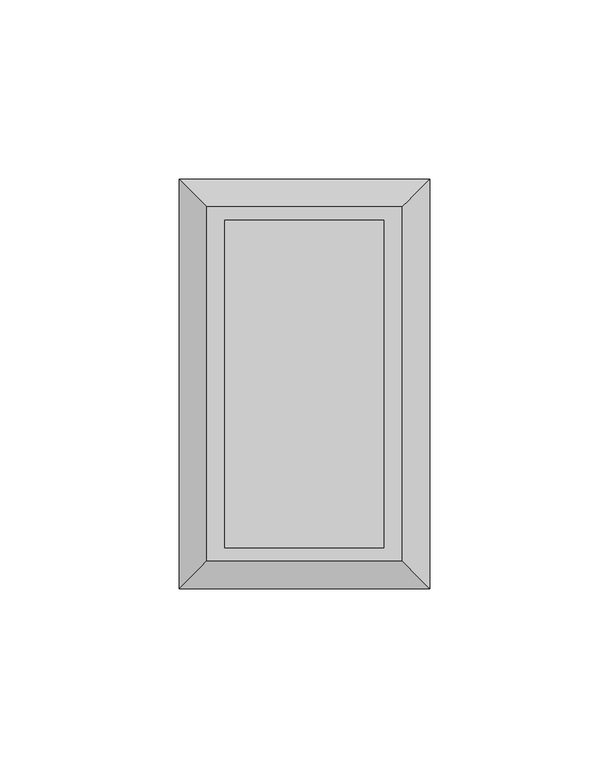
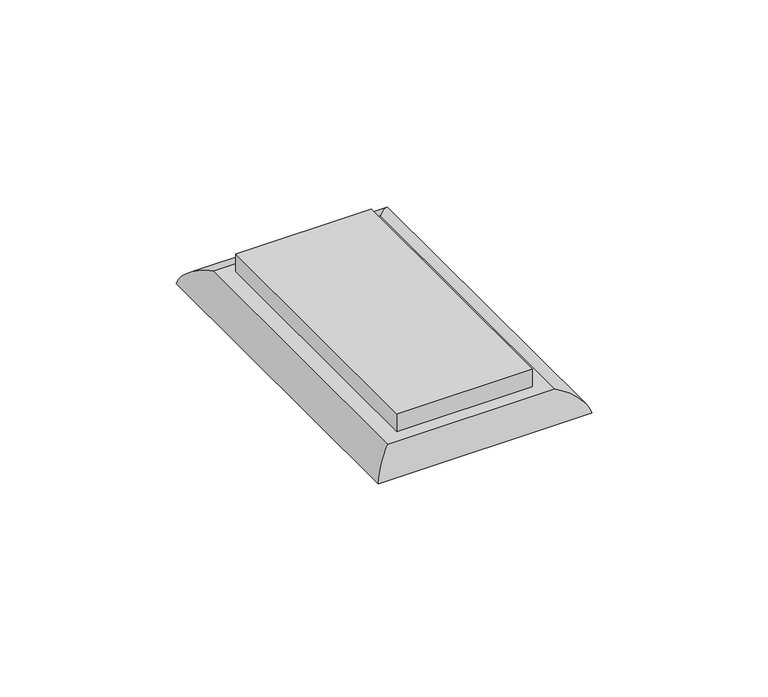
"""IFC4 building model written with IfcOpenShell, lengths in millimetres: proxy geometry, Cover_Plate-Wall-Pass_And_Seymour-Steel_Covers : Vertical, Decorator, Locking."""

from ifc_helpers import new_model, si_unit, frame, origin, place, context, project, spatial, polyline, ellipse_curve, outline, extrude, source, transform, mapped, element, save
from ifc_brep_helpers import plane_surface, cylinder_surface, advanced_brep


def electrical_fixtures_f4730aa6(model_context):
    return source(origin(), model_context, "Body", "SolidModel", [
        advanced_brep(
        [(-27.305, -49.53, 6.35), (-34.925, -57.15, 0.0), (34.925, -57.15, 0.0), (27.305, -49.53, 6.35), (-27.305, 49.53, 6.35), (-34.925, 57.15, 0.0), (27.305, 49.53, 6.35), (34.925, 57.15, 0.0)],
        [
            (0, 1, ellipse_curve(frame((-27.305, -49.53, -1.397), z_axis=(0.7071067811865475, -0.7071067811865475, 0.0), x_axis=(-0.7071067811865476, -0.7071067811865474, 0.0)), 10.9559125, 7.747)),
            (1, 2),
            (2, 3, ellipse_curve(frame((27.305, -49.53, -1.397), z_axis=(-0.7071067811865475, -0.7071067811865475, 0.0), x_axis=(-0.7071067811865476, 0.7071067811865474, 0.0)), 10.9559125, 7.747)),
            (3, 0),
            (0, 4),
            (4, 5, ellipse_curve(frame((-27.305, 49.53, -1.397), z_axis=(-0.7071067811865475, -0.7071067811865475, 0.0), x_axis=(-0.7071067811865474, 0.7071067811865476, 0.0)), 10.9559125, 7.747)),
            (5, 1),
            (4, 6),
            (6, 7, ellipse_curve(frame((27.305, 49.53, -1.397), z_axis=(-0.7071067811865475, 0.7071067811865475, 0.0), x_axis=(0.7071067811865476, 0.7071067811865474, 0.0)), 10.9559125, 7.747)),
            (7, 5),
            (2, 7),
            (6, 3),
        ],
        [
            cylinder_surface(frame((34.925, -49.53, -1.397), z_axis=(-1.0, 0.0, 0.0), x_axis=(0.0, -1.0, 0.0)), 7.747),
            cylinder_surface(frame((-27.305, -57.15, -1.397), z_axis=(0.0, 1.0, 0.0), x_axis=(-1.0, 0.0, 0.0)), 7.747),
            cylinder_surface(frame((-34.925, 49.53, -1.397), z_axis=(1.0, 0.0, 0.0), x_axis=(0.0, 1.0, 0.0)), 7.747),
            cylinder_surface(frame((27.305, 57.15, -1.397), z_axis=(0.0, -1.0, 0.0), x_axis=(1.0, 0.0, 0.0)), 7.747),
            plane_surface(frame((-34.925, 57.15, 6.35), z_axis=(0.0, 0.0, 1.0), x_axis=(-1.0, 0.0, 0.0))),
            plane_surface(frame((-34.925, 57.15, 0.0), z_axis=(0.0, 0.0, -1.0), x_axis=(1.0, 0.0, 0.0))),
        ],
        [
            (0, [[1, 2, 3, 4]]),
            (1, [[-1, 5, 6, 7]]),
            (2, [[-6, 8, 9, 10]]),
            (3, [[-3, 11, -9, 12]]),
            (4, [[-4, -12, -8, -5]]),
            (5, [[-2, -7, -10, -11]]),
        ],
    ),
        extrude(outline(polyline([(22.225, 45.6438), (22.225, -45.6438), (-22.225, -45.6438), (-22.225, 45.6438), (22.225, 45.6438)])), frame((0.0, 0.0, 6.35), z_axis=(0.0, 0.0, 1.0), x_axis=(1.0, 0.0, 0.0)), (0.0, 0.0, 1.0), 6.35),
        extrude(outline(polyline([(21.844, 35.179), (21.844, -35.179), (-21.844, -35.179), (-21.844, 35.179), (21.844, 35.179)])), frame((0.0, 0.0, -12.7), z_axis=(0.0, 0.0, 1.0), x_axis=(1.0, 0.0, 0.0)), (0.0, 0.0, 1.0), 12.7),
    ])


if __name__ == "__main__":
    model = new_model("IFC4")
    model_context = context("Model", 3, world=origin())
    ifc_project = project(units=[si_unit("LENGTHUNIT", "METRE", prefix="MILLI")], contexts=[model_context])
    site = spatial("IfcSite", under=ifc_project)
    building = spatial("IfcBuilding", under=site)
    placement = place(None, origin())
    electrical_fixtures_shape = electrical_fixtures_f4730aa6(model_context)
    element("IfcBuildingElementProxy", 1, Name="Cover_Plate-Wall-Pass_And_Seymour-Steel_Covers : Vertical, Decorator, Locking", ObjectType="Cover_Plate-Wall-Pass_And_Seymour-Steel_Covers : Vertical, Decorator, Locking", at=placement, inside=building, context=model_context, shape_type="MappedRepresentation", body=[
        mapped(electrical_fixtures_shape, transform((0.0, 0.0, 0.0), x_axis=(1.0, 0.0, 0.0), y_axis=(0.0, 1.0, 0.0), z_axis=(0.0, 0.0, 1.0))),
    ])
    save(model, "model.ifc")
